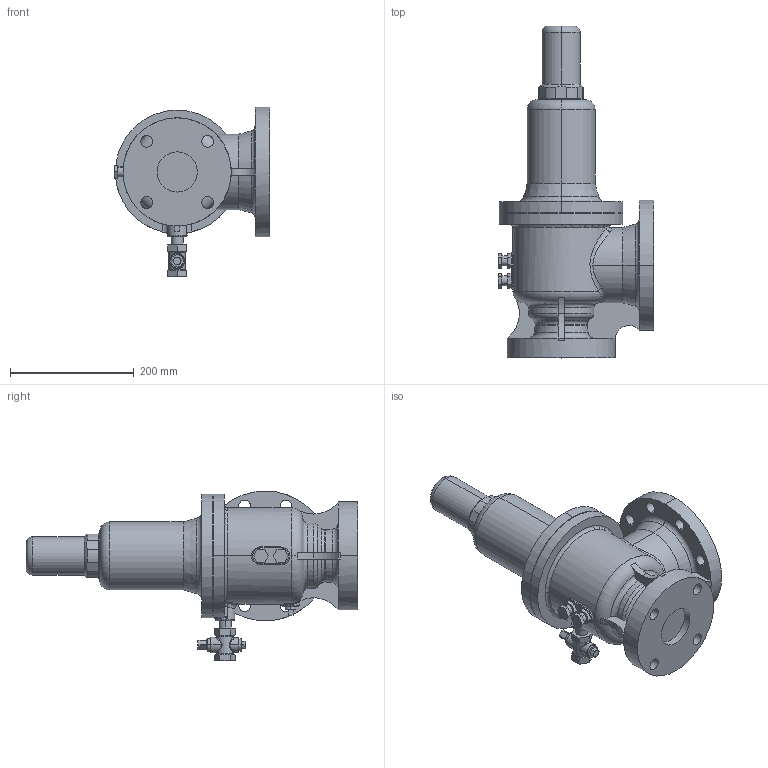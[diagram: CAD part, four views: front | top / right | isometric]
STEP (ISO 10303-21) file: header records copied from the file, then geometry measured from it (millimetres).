
FILE_DESCRIPTION (( 'STEP AP203' ), '1' );
FILE_NAME ('AF-4M 65A.STEP', '2024-07-31T00:20:08', ( '' ), ( '' ), 'SwSTEP 2.0', 'SolidWorks 2024', '' );
FILE_SCHEMA (( 'CONFIG_CONTROL_DESIGN' ));
Length unit declared in the file: millimetre
Products named in the file (6): AF-4M 65A; プラグ 10A; 背圧絞り弁 65A; AF-4 本体部P 65A; 止めボルト 65A; キャップ 65A
Assembly tree (6 placements, depth 2):
  AF-4M 65A
    AF-4 本体部P 65A
    止めボルト 65A  x2
    背圧絞り弁 65A
    プラグ 10A
    キャップ 65A
Bounding box: 252 x 537 x 275 mm (x, y, z)
Volume: 7882270 mm3; surface area: 479842.9 mm2
Topology: 6 solids, 6 shells, 377 faces, 953 edges, 582 vertices
Faces by surface type: plane 134, cylinder 98, torus 57, bspline 46, cone 42
Entity records: 15993 total; most frequent: CARTESIAN_POINT 7134, ORIENTED_EDGE 1766, DIRECTION 1663, EDGE_CURVE 883, AXIS2_PLACEMENT_3D 683, VERTEX_POINT 554, EDGE_LOOP 403, CIRCLE 361
